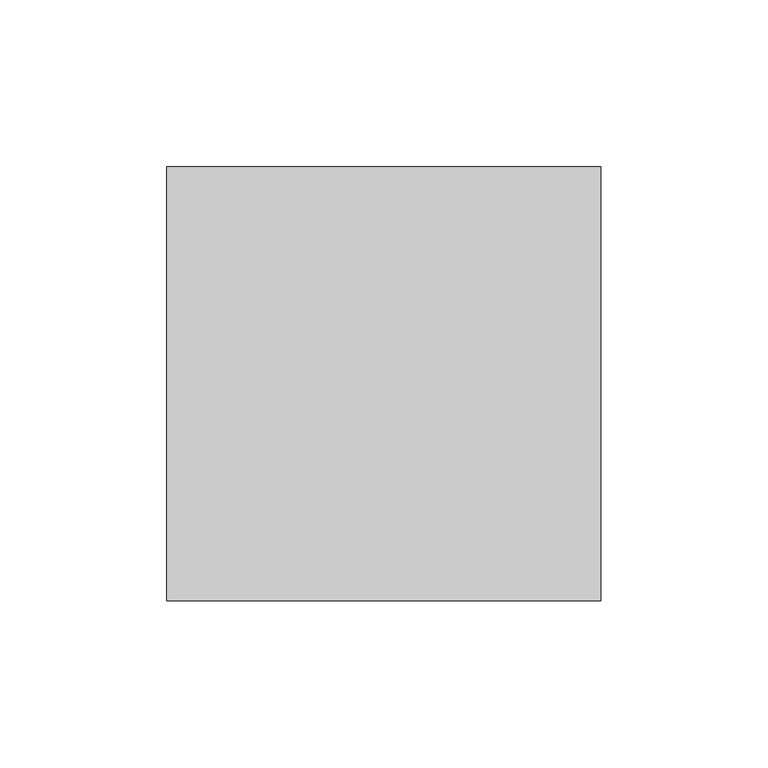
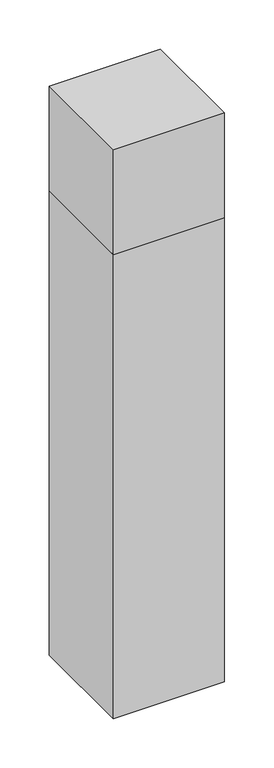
"""IFC4 building model written with IfcOpenShell, lengths in millimetres: light fixture geometry, Iluminação de caminho - Poste quadrado 1 : Iluminação de caminho - Poste quadrado 1."""

from ifc_helpers import new_model, si_unit, origin, origin_with_axes, place, context, project, spatial, polyline, outline, extrude, faceted_brep, source, transform, mapped, element, save


def light_fixture_9f0ce8a0(model_context):
    return source(origin(), model_context, "Body", "SolidModel", [
        faceted_brep([(65.0, -65.0, 705.0), (65.0, 65.0, 705.0), (-65.0, 65.0, 705.0), (-65.0, -65.0, 705.0), (63.0, -63.0, 703.0), (-63.0, -63.0, 703.0), (-63.0, 63.0, 703.0), (63.0, 63.0, 703.0), (65.0, -65.0, 575.0), (-65.0, -65.0, 575.0), (-65.0, 65.0, 575.0), (65.0, 65.0, 575.0), (63.0, -63.0, 575.0), (63.0, 63.0, 575.0), (-63.0, 63.0, 575.0), (-63.0, -63.0, 575.0)], [[[0, 1, 2, 3]], [[4, 5, 6, 7]], [[8, 9, 10, 11], [12, 13, 14, 15]], [[3, 9, 8, 0]], [[2, 10, 9, 3]], [[1, 11, 10, 2]], [[0, 8, 11, 1]], [[12, 4, 7, 13]], [[13, 7, 6, 14]], [[14, 6, 5, 15]], [[15, 5, 4, 12]]]),
        extrude(outline(polyline([(65.0, 65.0), (65.0, -65.0), (-65.0, -65.0), (-65.0, 65.0), (65.0, 65.0)])), origin_with_axes(), (0.0, 0.0, 1.0), 575.0),
    ])


if __name__ == "__main__":
    model = new_model("IFC4")
    model_context = context("Model", 3, world=origin())
    ifc_project = project(units=[si_unit("LENGTHUNIT", "METRE", prefix="MILLI")], contexts=[model_context])
    site = spatial("IfcSite", under=ifc_project)
    building = spatial("IfcBuilding", under=site)
    placement = place(None, origin())
    light_fixture_shape = light_fixture_9f0ce8a0(model_context)
    element("IfcLightFixture", 1, ObjectType="Iluminação de caminho - Poste quadrado 1 : Iluminação de caminho - Poste quadrado 1", at=placement, inside=building, context=model_context, shape_type="MappedRepresentation", body=[
        mapped(light_fixture_shape, transform((0.0, 0.0, 0.0), x_axis=(1.0, 0.0, 0.0), y_axis=(0.0, 1.0, 0.0), z_axis=(0.0, 0.0, 1.0))),
    ])
    save(model, "model.ifc")
